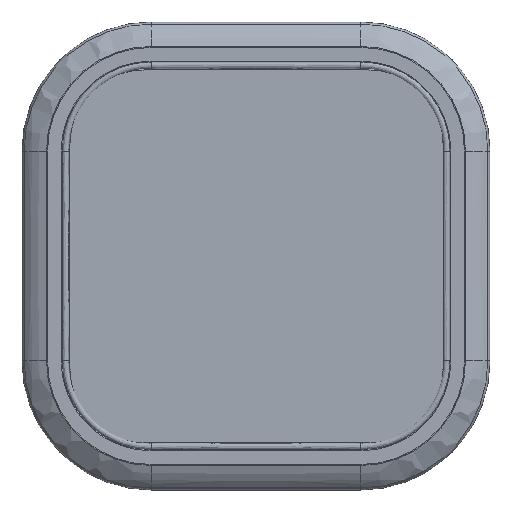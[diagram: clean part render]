
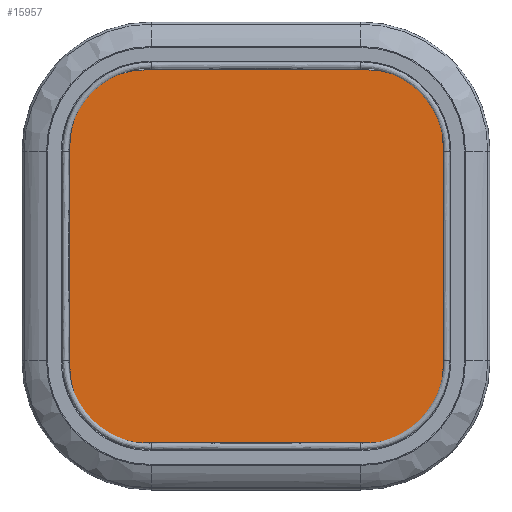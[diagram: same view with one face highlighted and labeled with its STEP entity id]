
A CAD part, top view. The second image highlights one B-rep face of the part: STEP entity #15957.
In plain terms, the highlighted planar face has unit normal (0, 0, 1) as drawn and (0, 1, 0) by its records, which use the part's own axes.
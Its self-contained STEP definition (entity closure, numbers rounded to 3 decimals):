
#15318=DIRECTION('',(-1.,0.,0.));
#15319=VECTOR('',#15318,135.);
#15320=CARTESIAN_POINT('',(67.5,6.,-112.));
#15321=LINE('',#15320,#15319);
#15322=CARTESIAN_POINT('',(67.5,6.,-67.5));
#15323=DIRECTION('',(0.,1.,0.));
#15324=DIRECTION('',(1.,0.,0.));
#15325=AXIS2_PLACEMENT_3D('',#15322,#15323,#15324);
#15327=DIRECTION('',(0.,0.,-1.));
#15328=VECTOR('',#15327,135.);
#15329=CARTESIAN_POINT('',(112.,6.,67.5));
#15330=LINE('',#15329,#15328);
#15331=CARTESIAN_POINT('',(67.5,6.,67.5));
#15332=DIRECTION('',(0.,1.,0.));
#15333=DIRECTION('',(0.,0.,1.));
#15334=AXIS2_PLACEMENT_3D('',#15331,#15332,#15333);
#15336=DIRECTION('',(1.,0.,0.));
#15337=VECTOR('',#15336,135.);
#15338=CARTESIAN_POINT('',(-67.5,6.,112.));
#15339=LINE('',#15338,#15337);
#15340=CARTESIAN_POINT('',(-67.5,6.,67.5));
#15341=DIRECTION('',(0.,1.,0.));
#15342=DIRECTION('',(-1.,0.,0.));
#15343=AXIS2_PLACEMENT_3D('',#15340,#15341,#15342);
#15345=DIRECTION('',(0.,0.,1.));
#15346=VECTOR('',#15345,135.);
#15347=CARTESIAN_POINT('',(-112.,6.,-67.5));
#15348=LINE('',#15347,#15346);
#15349=CARTESIAN_POINT('',(-67.5,6.,-67.5));
#15350=DIRECTION('',(0.,1.,0.));
#15351=DIRECTION('',(0.,0.,-1.));
#15352=AXIS2_PLACEMENT_3D('',#15349,#15350,#15351);
#15882=CARTESIAN_POINT('',(67.5,6.,-112.));
#15883=CARTESIAN_POINT('',(-67.5,6.,-112.));
#15884=VERTEX_POINT('',#15882);
#15885=VERTEX_POINT('',#15883);
#15886=CARTESIAN_POINT('',(-112.,6.,-67.5));
#15887=VERTEX_POINT('',#15886);
#15888=CARTESIAN_POINT('',(-112.,6.,67.5));
#15889=VERTEX_POINT('',#15888);
#15890=CARTESIAN_POINT('',(-67.5,6.,112.));
#15891=VERTEX_POINT('',#15890);
#15892=CARTESIAN_POINT('',(67.5,6.,112.));
#15893=VERTEX_POINT('',#15892);
#15894=CARTESIAN_POINT('',(112.,6.,67.5));
#15895=VERTEX_POINT('',#15894);
#15896=CARTESIAN_POINT('',(112.,6.,-67.5));
#15897=VERTEX_POINT('',#15896);
#15934=CARTESIAN_POINT('',(0.,6.,0.));
#15935=DIRECTION('',(0.,1.,0.));
#15936=DIRECTION('',(1.,0.,0.));
#15937=AXIS2_PLACEMENT_3D('',#15934,#15935,#15936);
#15938=PLANE('',#15937);
#15940=ORIENTED_EDGE('',*,*,#15939,.F.);
#15942=ORIENTED_EDGE('',*,*,#15941,.F.);
#15944=ORIENTED_EDGE('',*,*,#15943,.F.);
#15946=ORIENTED_EDGE('',*,*,#15945,.F.);
#15948=ORIENTED_EDGE('',*,*,#15947,.F.);
#15950=ORIENTED_EDGE('',*,*,#15949,.F.);
#15952=ORIENTED_EDGE('',*,*,#15951,.F.);
#15954=ORIENTED_EDGE('',*,*,#15953,.F.);
#15955=EDGE_LOOP('',(#15940,#15942,#15944,#15946,#15948,#15950,#15952,#15954));
#15956=FACE_OUTER_BOUND('',#15955,.F.);
#15957=ADVANCED_FACE('',(#15956),#15938,.T.);
#15326=CIRCLE('',#15325,44.5);
#15335=CIRCLE('',#15334,44.5);
#15344=CIRCLE('',#15343,44.5);
#15353=CIRCLE('',#15352,44.5);
#15939=EDGE_CURVE('',#15884,#15885,#15321,.T.);
#15941=EDGE_CURVE('',#15897,#15884,#15326,.T.);
#15943=EDGE_CURVE('',#15895,#15897,#15330,.T.);
#15945=EDGE_CURVE('',#15893,#15895,#15335,.T.);
#15947=EDGE_CURVE('',#15891,#15893,#15339,.T.);
#15949=EDGE_CURVE('',#15889,#15891,#15344,.T.);
#15951=EDGE_CURVE('',#15887,#15889,#15348,.T.);
#15953=EDGE_CURVE('',#15885,#15887,#15353,.T.);
